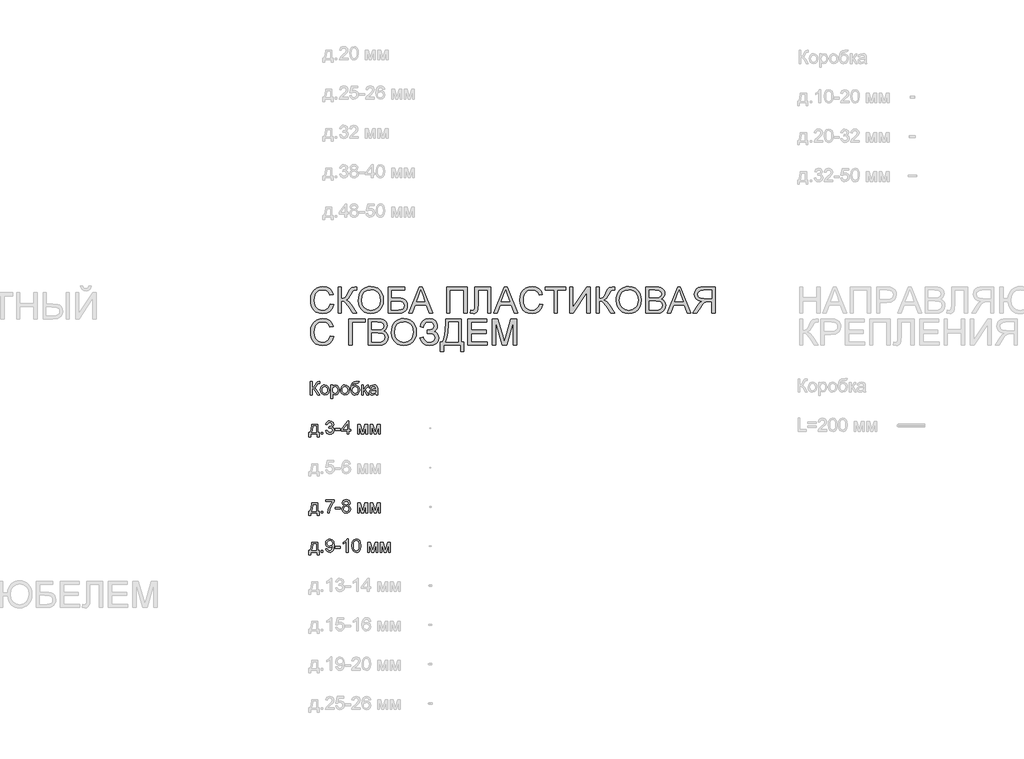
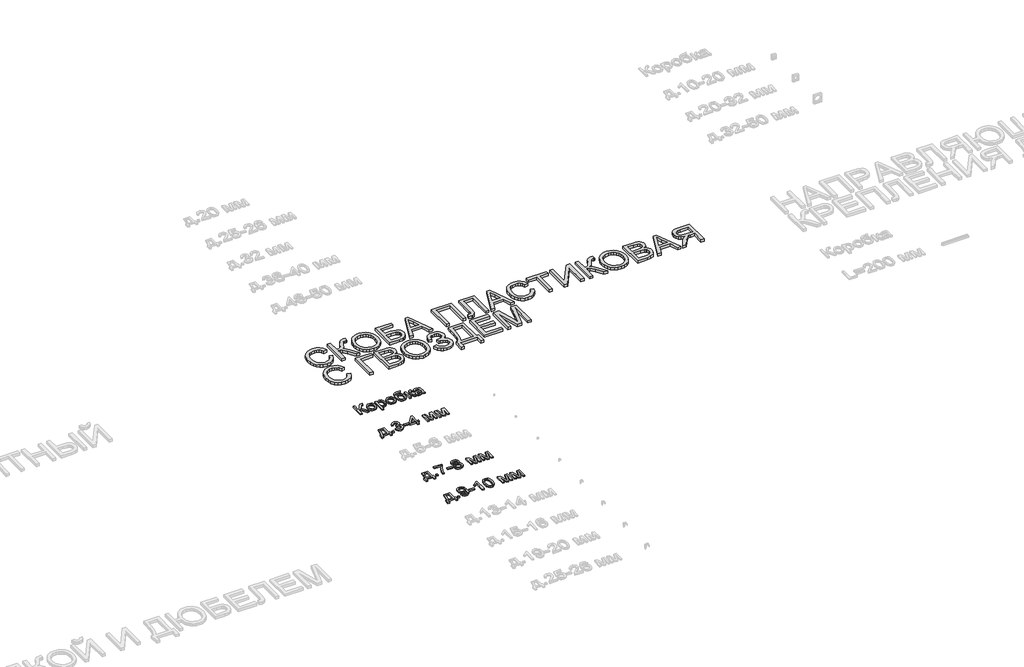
# One storey, part 45 of 98: 5 proxies.
"""IFC4 building model written with IfcOpenShell, lengths in millimetres."""

from ifc_helpers import new_model, si_unit, origin, origin_with_axes, place, context, project, spatial, polyline, outline, extrude, element, save

model = new_model("IFC4")

# Units and contexts
model_context = context("Model", 3, world=origin())
ifc_project = project(units=[si_unit("LENGTHUNIT", "METRE", prefix="MILLI")], contexts=[model_context])

# Site, building, storey
site = spatial("IfcSite", under=ifc_project)
building = spatial("IfcBuilding", under=site)
storey = spatial("IfcBuildingStorey", under=building, Name="Этаж 01", Elevation=0.0)

# Proxies
placement = place(None, origin())
element("IfcBuildingElementProxy", 1, Name="100", ObjectType="100", at=placement, inside=storey, context=model_context, shape_type="SweptSolid", body=[
    extrude(outline(polyline([(12334.7910055, -36537.0810385), (12347.3480442, -36537.0810385), (12347.3480442, -36581.0306742), (12361.3888737, -36577.7074735), (12371.1867975, -36560.8952663), (12378.1152418, -36546.8544368), (12385.963391, -36539.9014671), (12397.1837918, -36537.0810385), (12405.4243485, -36537.2281913), (12405.4243485, -36549.78523), (12402.6529708, -36549.7116536), (12399.8815931, -36549.6380772), (12390.0714066, -36552.6547096), (12382.6156648, -36565.5796304), (12373.7251833, -36581.3249798), (12365.0554309, -36586.5243786), (12374.7491215, -36592.2020241), (12384.307922, -36604.0355616), (12405.4243485, -36637.5373486), (12390.8562215, -36637.5373486), (12373.001682, -36609.2349605), (12360.4323805, -36594.458367), (12347.3480442, -36590.4484532), (12347.3480442, -36637.5373486), (12334.7910055, -36637.5373486), (12334.7910055, -36537.0810385)])), origin_with_axes(), (0.0, 0.0, 1.0), 10.0),
    extrude(outline(polyline([(12411.7028679, -36600.6510472), (12414.4190633, -36582.8639528), (12422.5676495, -36570.3620963), (12432.6353534, -36564.2368611), (12444.6896202, -36562.195116), (12457.8812554, -36564.6813852), (12468.4180088, -36572.1401926), (12475.3249933, -36583.9829272), (12477.6273215, -36599.6209776), (12473.556094, -36621.9636775), (12461.6980311, -36634.6065554), (12444.6896202, -36639.1069785), (12431.3385694, -36636.6299064), (12420.8140787, -36629.1986901), (12413.9806706, -36617.1076351), (12411.7028679, -36600.6510472)]), holes=[polyline([(12424.2599067, -36600.6265218), (12425.7130406, -36611.9910097), (12430.0724422, -36620.0874793), (12436.6330045, -36624.9343246), (12444.6896202, -36626.5499397), (12452.7094476, -36624.9251275), (12459.2577472, -36620.0506911), (12463.6171488, -36611.8469226), (12465.0702827, -36600.2341143), (12463.6079518, -36589.2007201), (12459.220959, -36581.2146152), (12452.6634624, -36576.3677699), (12444.6896202, -36574.7521548), (12436.6330045, -36576.3616385), (12430.0724422, -36581.1900897), (12425.7130406, -36589.2681652), (12424.2599067, -36600.6265218)])]), origin_with_axes(), (0.0, 0.0, 1.0), 10.0),
    extrude(outline(polyline([(12491.7539901, -36665.7906858), (12491.7539901, -36563.7647458), (12504.3110288, -36563.7647458), (12504.3110288, -36576.07653), (12512.9930439, -36565.6654695), (12524.7162168, -36562.195116), (12540.6332445, -36567.0511583), (12551.0320422, -36580.7363686), (12554.5391839, -36600.0869615), (12550.5783211, -36620.4308358), (12539.0758774, -36634.2877243), (12523.1956379, -36639.1069785), (12512.2695427, -36635.8818796), (12504.3110288, -36627.7271621), (12504.3110288, -36665.7906858), (12491.7539901, -36665.7906858)]), holes=[polyline([(12504.3110288, -36601.2396584), (12505.6691265, -36612.4968475), (12509.7434196, -36620.3695222), (12515.7552246, -36625.0048353), (12522.9258578, -36626.5499397), (12530.212987, -36624.949653), (12536.3780761, -36620.148793), (12540.5811279, -36611.987944), (12541.9821451, -36600.3076907), (12540.6148504, -36589.1118153), (12536.5129662, -36581.128776), (12530.5103583, -36576.3463101), (12523.4408926, -36574.7521548), (12516.3438358, -36576.4474776), (12510.1113016, -36581.5334462), (12505.761097, -36589.850645), (12504.3110288, -36601.2396584)])]), origin_with_axes(), (0.0, 0.0, 1.0), 10.0),
    extrude(outline(polyline([(12565.5265928, -36600.6510472), (12568.2427882, -36582.8639528), (12576.3913744, -36570.3620963), (12586.4590784, -36564.2368611), (12598.5133451, -36562.195116), (12611.7049803, -36564.6813852), (12622.2417338, -36572.1401926), (12629.1487182, -36583.9829272), (12631.4510464, -36599.6209776), (12627.379819, -36621.9636775), (12615.521756, -36634.6065554), (12598.5133451, -36639.1069785), (12585.1622943, -36636.6299064), (12574.6378036, -36629.1986901), (12567.8043955, -36617.1076351), (12565.5265928, -36600.6510472)]), holes=[polyline([(12578.0836316, -36600.6265218), (12579.5367655, -36611.9910097), (12583.8961671, -36620.0874793), (12590.4567294, -36624.9343246), (12598.5133451, -36626.5499397), (12606.5331726, -36624.9251275), (12613.0814721, -36620.0506911), (12617.4408737, -36611.8469226), (12618.8940076, -36600.2341143), (12617.4316767, -36589.2007201), (12613.0446839, -36581.2146152), (12606.4871873, -36576.3677699), (12598.5133451, -36574.7521548), (12590.4567294, -36576.3616385), (12583.8961671, -36581.1900897), (12579.5367655, -36589.2681652), (12578.0836316, -36600.6265218)])]), origin_with_axes(), (0.0, 0.0, 1.0), 10.0),
    extrude(outline(polyline([(12697.3754999, -36535.5114086), (12708.3629088, -36535.5114086), (12705.1255473, -36545.3093324), (12698.7244006, -36548.8532623), (12683.3469332, -36549.6380772), (12662.6351768, -36552.5320823), (12654.6889257, -36561.8027085), (12652.0033872, -36578.2102455), (12662.8804315, -36566.192767), (12676.8967355, -36562.195116), (12689.9626777, -36564.7365675), (12700.5638105, -36572.3609218), (12707.5903566, -36584.3201523), (12709.9325387, -36599.8662323), (12705.2849628, -36621.4731682), (12694.2607657, -36634.5084535), (12676.8967355, -36639.1069785), (12665.5629044, -36637.6262534), (12657.067896, -36633.1840783), (12646.2153771, -36618.0273401), (12642.4384553, -36585.862191), (12644.8204912, -36561.768986), (12651.966599, -36547.075166), (12664.0545882, -36539.5795703), (12681.2622685, -36537.0810385), (12695.2417843, -36536.7989956), (12697.3754999, -36535.5114086)]), holes=[polyline([(12697.3754999, -36599.4738248), (12696.0143365, -36589.5931276), (12691.9308464, -36581.680599), (12685.3702841, -36576.4842658), (12676.5779044, -36574.7521548), (12667.4115114, -36576.5823677), (12660.6118259, -36582.0730065), (12656.399577, -36590.6231972), (12654.9954941, -36601.6320659), (12656.5467298, -36612.3037094), (12661.200437, -36620.1365302), (12668.1288813, -36624.9465873), (12676.504328, -36626.5499397), (12684.9226944, -36624.6952013), (12691.5874899, -36619.1309861), (12695.9284974, -36610.507219), (12697.3754999, -36599.4738248)])]), origin_with_axes(), (0.0, 0.0, 1.0), 10.0),
    extrude(outline(polyline([(12725.6288371, -36563.7647458), (12738.1858759, -36563.7647458), (12738.1858759, -36595.1573428), (12746.5981109, -36592.9009999), (12753.4897669, -36579.7553499), (12759.2164633, -36568.4123217), (12764.2687094, -36564.721239), (12773.4534965, -36563.7647458), (12775.8569922, -36563.7647458), (12775.8569922, -36576.395361), (12772.4724779, -36576.3217846), (12766.3411113, -36577.6461598), (12762.0246292, -36585.911242), (12756.9601204, -36594.8507744), (12749.8599979, -36599.2285702), (12757.7817235, -36604.1152694), (12765.5562963, -36614.4098338), (12778.9962519, -36637.5373486), (12764.7224305, -36637.5373486), (12751.5522551, -36614.9003432), (12744.9303792, -36605.3231486), (12738.1858759, -36603.005492), (12738.1858759, -36637.5373486), (12725.6288371, -36637.5373486), (12725.6288371, -36563.7647458)])), origin_with_axes(), (0.0, 0.0, 1.0), 10.0),
    extrude(outline(polyline([(12833.9332965, -36628.1195695), (12821.7564025, -36636.6299064), (12808.3041842, -36639.1069785), (12797.8103503, -36637.6170564), (12790.0695, -36633.1472901), (12785.2962311, -36626.3598673), (12783.7051414, -36617.9169755), (12786.1086371, -36607.9841617), (12792.4239447, -36600.7736746), (12801.2163244, -36596.6533962), (12812.081106, -36594.7649353), (12833.8597201, -36590.4484532), (12833.9332965, -36587.6525501), (12830.4752058, -36578.3819238), (12816.5937918, -36574.7521548), (12803.8896002, -36577.1679132), (12797.8318101, -36585.7395637), (12785.2747713, -36584.1699338), (12790.7071621, -36571.9072007), (12801.6455201, -36564.721239), (12818.2124726, -36562.195116), (12833.4305245, -36564.4269334), (12842.0267004, -36570.0310025), (12845.8771986, -36578.5536021), (12846.4903353, -36589.541011), (12846.4903353, -36605.163733), (12847.1279974, -36626.9791354), (12849.629595, -36637.5373486), (12837.0725562, -36637.5373486), (12833.9332965, -36628.1195695)]), holes=[polyline([(12833.9332965, -36603.005492), (12813.6752613, -36606.8559902), (12802.8717934, -36608.8916039), (12797.9789629, -36612.2025419), (12796.2621802, -36617.0340587), (12800.0023138, -36623.8276129), (12810.97746, -36626.5499397), (12823.6816516, -36623.5455701), (12831.8731573, -36616.2737693), (12833.8597201, -36606.5616846), (12833.9332965, -36603.005492)])]), origin_with_axes(), (0.0, 0.0, 1.0), 10.0),
])
element("IfcBuildingElementProxy", 2, Name="100", ObjectType="100", at=placement, inside=storey, context=model_context, shape_type="SweptSolid", body=[
    extrude(outline(polyline([(12344.2087845, -36863.7647458), (12391.2976799, -36863.7647458), (12391.2976799, -36924.9803098), (12400.715459, -36924.9803098), (12400.715459, -36957.9425366), (12388.1584202, -36957.9425366), (12388.1584202, -36937.5373486), (12336.3606353, -36937.5373486), (12336.3606353, -36957.9425366), (12323.8035965, -36957.9425366), (12323.8035965, -36924.9803098), (12331.6517458, -36924.9803098), (12341.3515677, -36901.031192), (12344.2087845, -36863.7647458)]), holes=[polyline([(12355.1961935, -36876.3217846), (12352.2531375, -36904.9307411), (12345.7784144, -36924.9803098), (12378.7406412, -36924.9803098), (12378.7406412, -36876.3217846), (12355.1961935, -36876.3217846)])]), origin_with_axes(), (0.0, 0.0, 1.0), 10.0),
    extrude(outline(polyline([(12417.9813873, -36937.5373486), (12417.9813873, -36924.9803098), (12430.5384261, -36924.9803098), (12430.5384261, -36937.5373486), (12417.9813873, -36937.5373486)])), origin_with_axes(), (0.0, 0.0, 1.0), 10.0),
    extrude(outline(polyline([(12450.9436141, -36910.8536412), (12463.5006528, -36909.2840114), (12470.4290971, -36922.5032377), (12483.390806, -36926.5499397), (12491.9992447, -36925.1581195), (12498.6456461, -36920.9826588), (12504.3110288, -36907.1993467), (12498.694697, -36894.2131123), (12484.4208756, -36889.0750271), (12475.6162332, -36890.4484532), (12477.0141848, -36877.8914145), (12479.025273, -36878.0385673), (12493.274569, -36874.4333237), (12498.0202467, -36869.8593242), (12499.6021393, -36863.3478129), (12495.0158771, -36853.5253636), (12483.1946023, -36849.6380772), (12471.2261747, -36853.5621518), (12465.0702827, -36865.3343757), (12452.5132439, -36863.7647458), (12456.210458, -36852.4891627), (12462.7894143, -36844.0707964), (12471.7902605, -36838.8284779), (12482.7531439, -36837.0810385), (12497.8976194, -36840.5268665), (12508.4926209, -36849.9446456), (12512.1591781, -36862.6120489), (12508.6765618, -36874.188069), (12498.375866, -36882.5022021), (12512.0610762, -36891.0861154), (12516.8680676, -36907.4200759), (12514.4645719, -36919.6582836), (12507.2540848, -36929.8854031), (12496.3709091, -36936.8015846), (12482.9493477, -36939.1069785), (12470.8092418, -36937.1388098), (12460.9254789, -36931.2343038), (12454.0522169, -36922.2028008), (12450.9436141, -36910.8536412)])), origin_with_axes(), (0.0, 0.0, 1.0), 10.0),
    extrude(outline(polyline([(12524.7162168, -36907.7143815), (12524.7162168, -36895.1573428), (12563.956963, -36895.1573428), (12563.956963, -36907.7143815), (12524.7162168, -36907.7143815)])), origin_with_axes(), (0.0, 0.0, 1.0), 10.0),
    extrude(outline(polyline([(12615.7547479, -36937.5373486), (12615.7547479, -36913.9929009), (12570.2354824, -36913.9929009), (12570.2354824, -36901.4358622), (12618.8940076, -36838.6506683), (12628.3117867, -36838.6506683), (12628.3117867, -36901.4358622), (12640.8688254, -36901.4358622), (12640.8688254, -36913.9929009), (12628.3117867, -36913.9929009), (12628.3117867, -36937.5373486), (12615.7547479, -36937.5373486)]), holes=[polyline([(12615.7547479, -36901.4358622), (12615.7547479, -36862.6365744), (12585.6865262, -36901.4358622), (12615.7547479, -36901.4358622)])]), origin_with_axes(), (0.0, 0.0, 1.0), 10.0),
    extrude(outline(polyline([(12694.2362402, -36863.7647458), (12715.8431761, -36863.7647458), (12732.4959677, -36922.8220688), (12750.4486091, -36863.7647458), (12771.1481027, -36863.7647458), (12771.1481027, -36937.5373486), (12758.5910639, -36937.5373486), (12758.5910639, -36878.1366691), (12740.5403207, -36937.5373486), (12724.0592073, -36937.5373486), (12706.793279, -36875.291715), (12706.793279, -36937.5373486), (12694.2362402, -36937.5373486), (12694.2362402, -36863.7647458)])), origin_with_axes(), (0.0, 0.0, 1.0), 10.0),
    extrude(outline(polyline([(12789.9836608, -36863.7647458), (12811.5905967, -36863.7647458), (12828.2433883, -36922.8220688), (12846.1960297, -36863.7647458), (12866.8955233, -36863.7647458), (12866.8955233, -36937.5373486), (12854.3384845, -36937.5373486), (12854.3384845, -36878.1366691), (12836.2877413, -36937.5373486), (12819.8066279, -36937.5373486), (12802.5406996, -36875.291715), (12802.5406996, -36937.5373486), (12789.9836608, -36937.5373486), (12789.9836608, -36863.7647458)])), origin_with_axes(), (0.0, 0.0, 1.0), 10.0),
])
element("IfcBuildingElementProxy", 3, Name="100", ObjectType="100", at=placement, inside=storey, context=model_context, shape_type="SweptSolid", body=[
    extrude(outline(polyline([(12344.2087845, -37463.7647458), (12391.2976799, -37463.7647458), (12391.2976799, -37524.9803098), (12400.715459, -37524.9803098), (12400.715459, -37557.9425366), (12388.1584202, -37557.9425366), (12388.1584202, -37537.5373486), (12336.3606353, -37537.5373486), (12336.3606353, -37557.9425366), (12323.8035965, -37557.9425366), (12323.8035965, -37524.9803098), (12331.6517458, -37524.9803098), (12341.3515677, -37501.031192), (12344.2087845, -37463.7647458)]), holes=[polyline([(12355.1961935, -37476.3217846), (12352.2531375, -37504.9307411), (12345.7784144, -37524.9803098), (12378.7406412, -37524.9803098), (12378.7406412, -37476.3217846), (12355.1961935, -37476.3217846)])]), origin_with_axes(), (0.0, 0.0, 1.0), 10.0),
    extrude(outline(polyline([(12417.9813873, -37537.5373486), (12417.9813873, -37524.9803098), (12430.5384261, -37524.9803098), (12430.5384261, -37537.5373486), (12417.9813873, -37537.5373486)])), origin_with_axes(), (0.0, 0.0, 1.0), 10.0),
    extrude(outline(polyline([(12450.9436141, -37451.2077071), (12450.9436141, -37438.6506683), (12516.8680676, -37438.6506683), (12516.8680676, -37448.8042114), (12498.1673995, -37475.8190126), (12483.8567899, -37510.2405046), (12479.1969513, -37537.5373486), (12466.6399125, -37537.5373486), (12471.6308449, -37509.210435), (12485.3283179, -37477.1924387), (12504.3110288, -37451.2077071), (12450.9436141, -37451.2077071)])), origin_with_axes(), (0.0, 0.0, 1.0), 10.0),
    extrude(outline(polyline([(12524.7162168, -37507.7143815), (12524.7162168, -37495.1573428), (12563.956963, -37495.1573428), (12563.956963, -37507.7143815), (12524.7162168, -37507.7143815)])), origin_with_axes(), (0.0, 0.0, 1.0), 10.0),
    extrude(outline(polyline([(12593.2403698, -37482.2078965), (12581.7992398, -37474.4087982), (12578.0836316, -37462.2686924), (12580.1069826, -37452.4523745), (12586.1770355, -37444.3405765), (12595.6132087, -37438.895923), (12607.7349204, -37437.0810385), (12619.9302086, -37438.9388425), (12629.4890091, -37444.5122548), (12635.6694266, -37452.7528115), (12637.7295658, -37462.6120489), (12634.0630085, -37474.4455864), (12622.9407096, -37482.2078965), (12636.294826, -37492.0548713), (12640.8688254, -37508.3029927), (12638.6002198, -37520.3082085), (12631.7944029, -37530.2287596), (12621.2852406, -37536.8874238), (12607.9065987, -37539.1069785), (12594.5279568, -37536.8782267), (12584.0187945, -37530.1919714), (12577.2129776, -37520.1763841), (12574.9443719, -37507.9596362), (12579.7023124, -37491.33137), (12593.2403698, -37482.2078965)]), holes=[polyline([(12590.6406704, -37462.6365744), (12595.0920425, -37472.4958119), (12608.0537515, -37476.3217846), (12620.757943, -37472.5203373), (12625.172527, -37463.2006601), (12620.6107902, -37453.5498891), (12607.9065987, -37449.6380772), (12595.1656189, -37453.46405), (12590.6406704, -37462.6365744)]), polyline([(12587.5014107, -37507.5181778), (12589.5983381, -37516.9727451), (12597.0172916, -37524.0483421), (12608.0047005, -37526.5499397), (12616.5518256, -37525.2347616), (12622.965235, -37521.2892272), (12628.3117867, -37507.9105853), (12622.7935568, -37494.274426), (12616.2329945, -37490.227724), (12607.5877676, -37488.8788234), (12599.1602042, -37490.2093299), (12592.8111741, -37494.2008496), (12587.5014107, -37507.5181778)])]), origin_with_axes(), (0.0, 0.0, 1.0), 10.0),
    extrude(outline(polyline([(12694.2362402, -37463.7647458), (12715.8431761, -37463.7647458), (12732.4959677, -37522.8220688), (12750.4486091, -37463.7647458), (12771.1481027, -37463.7647458), (12771.1481027, -37537.5373486), (12758.5910639, -37537.5373486), (12758.5910639, -37478.1366691), (12740.5403207, -37537.5373486), (12724.0592073, -37537.5373486), (12706.793279, -37475.291715), (12706.793279, -37537.5373486), (12694.2362402, -37537.5373486), (12694.2362402, -37463.7647458)])), origin_with_axes(), (0.0, 0.0, 1.0), 10.0),
    extrude(outline(polyline([(12789.9836608, -37463.7647458), (12811.5905967, -37463.7647458), (12828.2433883, -37522.8220688), (12846.1960297, -37463.7647458), (12866.8955233, -37463.7647458), (12866.8955233, -37537.5373486), (12854.3384845, -37537.5373486), (12854.3384845, -37478.1366691), (12836.2877413, -37537.5373486), (12819.8066279, -37537.5373486), (12802.5406996, -37475.291715), (12802.5406996, -37537.5373486), (12789.9836608, -37537.5373486), (12789.9836608, -37463.7647458)])), origin_with_axes(), (0.0, 0.0, 1.0), 10.0),
])
element("IfcBuildingElementProxy", 4, Name="100", ObjectType="100", at=placement, inside=storey, context=model_context, shape_type="SweptSolid", body=[
    extrude(outline(polyline([(12344.2087845, -37763.7647458), (12391.2976799, -37763.7647458), (12391.2976799, -37824.9803098), (12400.715459, -37824.9803098), (12400.715459, -37857.9425366), (12388.1584202, -37857.9425366), (12388.1584202, -37837.5373486), (12336.3606353, -37837.5373486), (12336.3606353, -37857.9425366), (12323.8035965, -37857.9425366), (12323.8035965, -37824.9803098), (12331.6517458, -37824.9803098), (12341.3515677, -37801.031192), (12344.2087845, -37763.7647458)]), holes=[polyline([(12355.1961935, -37776.3217846), (12352.2531375, -37804.9307411), (12345.7784144, -37824.9803098), (12378.7406412, -37824.9803098), (12378.7406412, -37776.3217846), (12355.1961935, -37776.3217846)])]), origin_with_axes(), (0.0, 0.0, 1.0), 10.0),
    extrude(outline(polyline([(12417.9813873, -37837.5373486), (12417.9813873, -37824.9803098), (12430.5384261, -37824.9803098), (12430.5384261, -37837.5373486), (12417.9813873, -37837.5373486)])), origin_with_axes(), (0.0, 0.0, 1.0), 10.0),
    extrude(outline(polyline([(12452.5132439, -37812.4232711), (12465.0702827, -37810.8536412), (12470.7111399, -37822.8343315), (12481.4042433, -37826.5499397), (12491.5700491, -37824.1587067), (12498.4617051, -37817.7698227), (12502.5697207, -37806.8559902), (12504.3846052, -37792.2878632), (12504.3110288, -37789.8353166), (12494.2678504, -37799.3511975), (12480.496801, -37803.005492), (12469.0464739, -37800.7736746), (12459.5152646, -37794.0782222), (12453.0865267, -37783.7346068), (12450.9436141, -37770.5583), (12453.1907599, -37756.9466662), (12459.9321975, -37746.2780883), (12470.0581494, -37739.3803009), (12482.4588383, -37737.0810385), (12500.350166, -37742.3294883), (12512.6619501, -37757.2900227), (12516.8680676, -37785.3962072), (12512.6742129, -37815.8936246), (12507.4594856, -37825.8846864), (12500.2030132, -37833.1718156), (12491.2174955, -37837.6231877), (12480.8156321, -37839.1069785), (12470.0796092, -37837.3564733), (12461.5140901, -37832.1049578), (12455.5237449, -37823.6835258), (12452.5132439, -37812.4232711)]), holes=[polyline([(12504.3110288, -37770.2639944), (12502.9559968, -37761.7536576), (12498.8909008, -37755.2053581), (12492.5817246, -37751.0298974), (12484.494452, -37749.6380772), (12476.1067425, -37751.1371964), (12469.3867648, -37755.6345538), (12464.9721808, -37762.5170127), (12463.5006528, -37771.1714367), (12464.8924731, -37778.9306811), (12469.0679337, -37785.0896388), (12475.6223646, -37789.1087496), (12484.1510955, -37790.4484532), (12498.6333834, -37785.0896388), (12502.8916175, -37778.7038205), (12504.3110288, -37770.2639944)])]), origin_with_axes(), (0.0, 0.0, 1.0), 10.0),
    extrude(outline(polyline([(12524.7162168, -37807.7143815), (12524.7162168, -37795.1573428), (12563.956963, -37795.1573428), (12563.956963, -37807.7143815), (12524.7162168, -37807.7143815)])), origin_with_axes(), (0.0, 0.0, 1.0), 10.0),
    extrude(outline(polyline([(12622.0332673, -37837.5373486), (12609.4762285, -37837.5373486), (12609.4762285, -37759.25206), (12597.5813774, -37767.7256087), (12584.362151, -37774.0654417), (12584.362151, -37762.195116), (12602.7685135, -37750.4474176), (12613.9398634, -37737.0810385), (12622.0332673, -37737.0810385), (12622.0332673, -37837.5373486)])), origin_with_axes(), (0.0, 0.0, 1.0), 10.0),
    extrude(outline(polyline([(12651.8562344, -37788.1185339), (12655.5473171, -37759.2152718), (12666.5102005, -37742.5502175), (12684.8184611, -37737.0810385), (12699.48469, -37740.3184), (12709.6137076, -37749.65034), (12715.4998195, -37764.5127726), (12717.7806879, -37788.1185339), (12714.1263934, -37816.8991687), (12703.2002982, -37833.6010113), (12694.9689385, -37837.7304867), (12684.8184611, -37839.1069785), (12671.770913, -37836.7157455), (12661.8626246, -37829.5420466), (12654.3578319, -37812.5520298), (12651.8562344, -37788.1185339)]), holes=[polyline([(12664.4132731, -37788.0940085), (12665.8848011, -37807.8462059), (12670.2993851, -37819.2781389), (12676.87221, -37824.7319895), (12684.8184611, -37826.5499397), (12692.7647122, -37824.7258581), (12699.3375372, -37819.2536135), (12703.7521212, -37807.8155491), (12705.2236491, -37788.0940085), (12703.8011721, -37768.7863351), (12699.5337409, -37757.2654973), (12692.9731787, -37751.5449322), (12684.6713083, -37749.6380772), (12676.8108964, -37751.3180717), (12670.4955888, -37756.358055), (12665.9338521, -37768.5962627), (12664.4132731, -37788.0940085)])]), origin_with_axes(), (0.0, 0.0, 1.0), 10.0),
    extrude(outline(polyline([(12771.1481027, -37763.7647458), (12792.7550385, -37763.7647458), (12809.4078302, -37822.8220688), (12827.3604715, -37763.7647458), (12848.0599651, -37763.7647458), (12848.0599651, -37837.5373486), (12835.5029264, -37837.5373486), (12835.5029264, -37778.1366691), (12817.4521831, -37837.5373486), (12800.9710698, -37837.5373486), (12783.7051414, -37775.291715), (12783.7051414, -37837.5373486), (12771.1481027, -37837.5373486), (12771.1481027, -37763.7647458)])), origin_with_axes(), (0.0, 0.0, 1.0), 10.0),
    extrude(outline(polyline([(12866.8955233, -37763.7647458), (12888.5024591, -37763.7647458), (12905.1552508, -37822.8220688), (12923.1078921, -37763.7647458), (12943.8073857, -37763.7647458), (12943.8073857, -37837.5373486), (12931.250347, -37837.5373486), (12931.250347, -37778.1366691), (12913.1996037, -37837.5373486), (12896.7184904, -37837.5373486), (12879.4525621, -37775.291715), (12879.4525621, -37837.5373486), (12866.8955233, -37837.5373486), (12866.8955233, -37763.7647458)])), origin_with_axes(), (0.0, 0.0, 1.0), 10.0),
])
element("IfcBuildingElementProxy", 5, Name="200", ObjectType="200", at=placement, inside=storey, context=model_context, shape_type="SweptSolid", body=[
    extrude(outline(polyline([(12487.0451005, -35944.1443728), (12512.1591781, -35950.6190959), (12500.5708952, -35979.8841086), (12482.3852619, -36001.2641839), (12458.4974577, -36014.3423888), (12429.8026621, -36018.7017905), (12400.6725394, -36015.4031152), (12377.5388933, -36005.5070896), (12359.8069811, -35989.35707), (12346.8820604, -35967.296413), (12338.9909916, -35941.3607323), (12336.3606353, -35913.5856417), (12339.3343481, -35884.2899722), (12348.2554865, -35858.9919536), (12362.6580666, -35838.4947951), (12382.0761046, -35823.6017057), (12405.1055175, -35814.5334145), (12430.3422223, -35811.5106508), (12457.8781897, -35815.4224627), (12480.6439538, -35827.1578983), (12497.9282762, -35845.9934565), (12509.0199184, -35871.2056359), (12483.9058408, -35877.1898496), (12475.1993003, -35858.8754577), (12463.3044491, -35846.3122875), (12448.0741345, -35839.0466181), (12429.3612037, -35836.6247283), (12407.791056, -35839.3102669), (12390.0714066, -35847.3668826), (12376.6253197, -35859.9484468), (12367.8758596, -35876.208831), (12363.0749995, -35894.590668), (12361.4747128, -35913.5365908), (12363.3693051, -35936.7376819), (12369.0530819, -35956.7995134), (12378.7406412, -35972.9556644), (12392.6465806, -35984.439714), (12409.3177663, -35991.3007132), (12427.3010645, -35993.5877129), (12448.2642069, -35990.4729787), (12465.7324703, -35981.128776), (12478.9210398, -35965.6532068), (12487.0451005, -35944.1443728)])), origin_with_axes(), (0.0, 0.0, 1.0), 20.0),
    extrude(outline(polyline([(12546.6910347, -35814.6499105), (12571.8051122, -35814.6499105), (12571.8051122, -35902.5491818), (12588.8073918, -35900.8875815), (12599.8867712, -35895.9027805), (12608.8446978, -35884.1734762), (12619.4826188, -35862.2783661), (12633.3395073, -35834.1967071), (12649.0358057, -35820.2907677), (12671.4766074, -35814.6499105), (12687.9577208, -35814.9442161), (12687.9577208, -35840.0582936), (12682.4149654, -35839.9111408), (12676.87221, -35839.763988), (12665.3697663, -35841.2723042), (12657.251837, -35845.7972527), (12642.3403534, -35871.6470943), (12624.5593903, -35903.137793), (12607.2198856, -35913.5365908), (12626.6072668, -35924.8918817), (12645.7248678, -35948.5589567), (12687.9577208, -36015.5625308), (12658.8214668, -36015.5625308), (12623.1123878, -35958.9577544), (12597.9737848, -35929.4045675), (12586.3671079, -35923.3896969), (12571.8051122, -35921.38474), (12571.8051122, -36015.5625308), (12546.6910347, -36015.5625308), (12546.6910347, -35814.6499105)])), origin_with_axes(), (0.0, 0.0, 1.0), 20.0),
    extrude(outline(polyline([(12700.5147596, -35917.754971), (12702.1886227, -35894.1890635), (12707.2102119, -35873.3270887), (12715.5795273, -35855.1690466), (12727.2965688, -35839.7149371), (12741.6592951, -35827.3755618), (12757.9656645, -35818.5617224), (12776.2156772, -35813.2734187), (12796.409333, -35811.5106508), (12822.7619466, -35814.8215887), (12846.3922334, -35824.7544026), (12866.0126065, -35840.6101166), (12880.3354788, -35861.6897549), (12889.0910703, -35886.9755107), (12892.0096008, -35915.4495771), (12888.9377862, -35944.3037883), (12879.7223422, -35969.9451634), (12864.8721723, -35991.0615899), (12844.89618, -36006.3409554), (12821.4682282, -36015.6115817), (12796.2621802, -36018.7017905), (12769.5048964, -36015.2866193), (12745.7397195, -36005.0411057), (12726.1683974, -35988.8910861), (12711.9926779, -35967.7623969), (12703.3842392, -35943.4515283), (12700.5147596, -35917.754971)]), holes=[polyline([(12725.6288371, -35918.0002256), (12730.6504264, -35949.4296108), (12745.7151941, -35973.3787287), (12768.3583309, -35988.5354669), (12796.1150274, -35993.5877129), (12824.2763941, -35988.4864159), (12846.9563191, -35973.1825249), (12855.679721, -35961.9100075), (12861.9107223, -35948.497643), (12866.8955233, -35915.2533734), (12864.7618077, -35893.0210382), (12858.360661, -35873.8053353), (12847.85763, -35858.0906427), (12833.4182617, -35846.3613385), (12815.9990493, -35839.0588808), (12796.5564858, -35836.6247283), (12769.5416846, -35841.3152238), (12746.5735854, -35855.3867101), (12737.410258, -35866.3357979), (12730.8650242, -35880.4210798), (12725.6288371, -35918.0002256)])]), origin_with_axes(), (0.0, 0.0, 1.0), 20.0),
    extrude(outline(polyline([(12926.5414574, -35814.6499105), (13052.1118451, -35814.6499105), (13052.1118451, -35839.763988), (12951.655535, -35839.763988), (12951.655535, -35899.4099222), (12998.6953794, -35899.4099222), (13022.0804116, -35900.6852464), (13040.1434175, -35904.5112192), (13054.0125688, -35911.8811218), (13064.8160367, -35923.7882357), (13071.7690064, -35939.1166522), (13074.086663, -35956.7504625), (13072.4373254, -35971.5577128), (13067.4893125, -35985.3716817), (13059.2671499, -35997.468868), (13047.795363, -36007.1257703), (13030.1002391, -36013.4533407), (13003.2080652, -36015.5625308), (12926.5414574, -36015.5625308), (12926.5414574, -35814.6499105)]), holes=[polyline([(12951.655535, -35990.4484532), (13005.4644081, -35990.4484532), (13024.4839073, -35988.3760513), (13038.0832784, -35982.1588456), (13046.2502587, -35971.7968361), (13048.9725854, -35957.2900227), (13047.4152183, -35946.4865548), (13042.743117, -35937.6205987), (13035.2935066, -35931.0477737), (13025.4036123, -35927.1236991), (12987.5608177, -35924.5239997), (12951.655535, -35924.5239997), (12951.655535, -35990.4484532)])]), origin_with_axes(), (0.0, 0.0, 1.0), 20.0),
    extrude(outline(polyline([(13085.2212247, -36015.5625308), (13165.4194996, -35814.6499105), (13186.8057063, -35814.6499105), (13267.0039812, -36015.5625308), (13240.4674267, -36015.5625308), (13217.4625392, -35952.7773369), (13134.7136158, -35952.7773369), (13111.7577793, -36015.5625308), (13085.2212247, -36015.5625308)]), holes=[polyline([(13143.9351911, -35927.6632594), (13208.2900148, -35927.6632594), (13190.1902206, -35878.2689702), (13176.112603, -35839.763988), (13163.6046151, -35873.9524881), (13143.9351911, -35927.6632594)])]), origin_with_axes(), (0.0, 0.0, 1.0), 20.0),
    extrude(outline(polyline([(13372.3163337, -35814.6499105), (13529.2793183, -35814.6499105), (13529.2793183, -36015.5625308), (13504.1652408, -36015.5625308), (13504.1652408, -35839.763988), (13397.4304113, -35839.763988), (13397.4304113, -36015.5625308), (13372.3163337, -36015.5625308), (13372.3163337, -35814.6499105)])), origin_with_axes(), (0.0, 0.0, 1.0), 20.0),
    extrude(outline(polyline([(13588.9252525, -35814.6499105), (13711.3563805, -35814.6499105), (13711.3563805, -36015.5625308), (13686.2423029, -36015.5625308), (13686.2423029, -35839.763988), (13614.03933, -35839.763988), (13614.03933, -35942.2804373), (13611.1207995, -35988.0204321), (13606.6019824, -36000.9453528), (13598.8825918, -36010.632912), (13588.3121158, -36016.6845709), (13575.2400423, -36018.7017905), (13554.3933959, -36015.5625308), (13557.5326556, -35990.4484532), (13569.5501341, -35993.5877129), (13578.0420768, -35991.9015871), (13584.0937356, -35986.8432097), (13587.7173733, -35975.5308383), (13588.9252525, -35955.0827308), (13588.9252525, -35814.6499105)])), origin_with_axes(), (0.0, 0.0, 1.0), 20.0),
    extrude(outline(polyline([(13731.9087213, -36015.5625308), (13812.1069962, -35814.6499105), (13833.4932029, -35814.6499105), (13913.6914778, -36015.5625308), (13887.1549232, -36015.5625308), (13864.1500358, -35952.7773369), (13781.4011124, -35952.7773369), (13758.4452759, -36015.5625308), (13731.9087213, -36015.5625308)]), holes=[polyline([(13790.6226877, -35927.6632594), (13854.9775114, -35927.6632594), (13836.8777172, -35878.2689702), (13822.8000996, -35839.763988), (13810.2921117, -35873.9524881), (13790.6226877, -35927.6632594)])]), origin_with_axes(), (0.0, 0.0, 1.0), 20.0),
    extrude(outline(polyline([(14081.7890242, -35944.1443728), (14106.9031017, -35950.6190959), (14095.3148188, -35979.8841086), (14077.1291856, -36001.2641839), (14053.2413813, -36014.3423888), (14024.5465857, -36018.7017905), (13995.4164631, -36015.4031152), (13972.2828169, -36005.5070896), (13954.5509048, -35989.35707), (13941.625984, -35967.296413), (13933.7349152, -35941.3607323), (13931.1045589, -35913.5856417), (13934.0782717, -35884.2899722), (13942.9994101, -35858.9919536), (13957.4019902, -35838.4947951), (13976.8200282, -35823.6017057), (13999.8494411, -35814.5334145), (14025.086146, -35811.5106508), (14052.6221133, -35815.4224627), (14075.3878774, -35827.1578983), (14092.6721998, -35845.9934565), (14103.763842, -35871.2056359), (14078.6497645, -35877.1898496), (14069.9432239, -35858.8754577), (14058.0483727, -35846.3122875), (14042.8180581, -35839.0466181), (14024.1051273, -35836.6247283), (14002.5349797, -35839.3102669), (13984.8153302, -35847.3668826), (13971.3692433, -35859.9484468), (13962.6197832, -35876.208831), (13957.8189231, -35894.590668), (13956.2186365, -35913.5365908), (13958.1132287, -35936.7376819), (13963.7970056, -35956.7995134), (13973.4845648, -35972.9556644), (13987.3905042, -35984.439714), (14004.0616899, -35991.3007132), (14022.0449881, -35993.5877129), (14043.0081305, -35990.4729787), (14060.4763939, -35981.128776), (14073.6649634, -35965.6532068), (14081.7890242, -35944.1443728)])), origin_with_axes(), (0.0, 0.0, 1.0), 20.0),
    extrude(outline(polyline([(14191.6631134, -36015.5625308), (14191.6631134, -35839.763988), (14125.7386598, -35839.763988), (14125.7386598, -35814.6499105), (14282.7016445, -35814.6499105), (14282.7016445, -35839.763988), (14216.7771909, -35839.763988), (14216.7771909, -36015.5625308), (14191.6631134, -36015.5625308)])), origin_with_axes(), (0.0, 0.0, 1.0), 20.0),
    extrude(outline(polyline([(14310.9549817, -35814.6499105), (14336.0690592, -35814.6499105), (14336.0690592, -35973.7711361), (14441.2342589, -35814.6499105), (14467.9179663, -35814.6499105), (14467.9179663, -36015.5625308), (14442.8038888, -36015.5625308), (14442.8038888, -35856.8827635), (14337.8839437, -36015.5625308), (14310.9549817, -36015.5625308), (14310.9549817, -35814.6499105)])), origin_with_axes(), (0.0, 0.0, 1.0), 20.0),
    extrude(outline(polyline([(14511.867602, -35814.6499105), (14536.9816795, -35814.6499105), (14536.9816795, -35902.5491818), (14553.9839591, -35900.8875815), (14565.0633385, -35895.9027805), (14574.0212651, -35884.1734762), (14584.6591861, -35862.2783661), (14598.5160746, -35834.1967071), (14614.212373, -35820.2907677), (14636.6531747, -35814.6499105), (14653.1342881, -35814.9442161), (14653.1342881, -35840.0582936), (14647.5915327, -35839.9111408), (14642.0487773, -35839.763988), (14630.5463336, -35841.2723042), (14622.4284043, -35845.7972527), (14607.5169207, -35871.6470943), (14589.7359576, -35903.137793), (14572.3964529, -35913.5365908), (14591.7838341, -35924.8918817), (14610.9014351, -35948.5589567), (14653.1342881, -36015.5625308), (14623.9980341, -36015.5625308), (14588.2889551, -35958.9577544), (14563.1503521, -35929.4045675), (14551.5436752, -35923.3896969), (14536.9816795, -35921.38474), (14536.9816795, -36015.5625308), (14511.867602, -36015.5625308), (14511.867602, -35814.6499105)])), origin_with_axes(), (0.0, 0.0, 1.0), 20.0),
    extrude(outline(polyline([(14665.6913269, -35917.754971), (14667.36519, -35894.1890635), (14672.3867792, -35873.3270887), (14680.7560946, -35855.1690466), (14692.4731362, -35839.7149371), (14706.8358624, -35827.3755618), (14723.1422318, -35818.5617224), (14741.3922445, -35813.2734187), (14761.5859003, -35811.5106508), (14787.9385139, -35814.8215887), (14811.5688007, -35824.7544026), (14831.1891738, -35840.6101166), (14845.5120461, -35861.6897549), (14854.2676376, -35886.9755107), (14857.1861681, -35915.4495771), (14854.1143535, -35944.3037883), (14844.8989095, -35969.9451634), (14830.0487396, -35991.0615899), (14810.0727473, -36006.3409554), (14786.6447955, -36015.6115817), (14761.4387475, -36018.7017905), (14734.6814637, -36015.2866193), (14710.9162868, -36005.0411057), (14691.3449647, -35988.8910861), (14677.1692452, -35967.7623969), (14668.5608065, -35943.4515283), (14665.6913269, -35917.754971)]), holes=[polyline([(14690.8054044, -35918.0002256), (14695.8269937, -35949.4296108), (14710.8917614, -35973.3787287), (14733.5348982, -35988.5354669), (14761.2915947, -35993.5877129), (14789.4529614, -35988.4864159), (14812.1328864, -35973.1825249), (14820.8562883, -35961.9100075), (14827.0872896, -35948.497643), (14832.0720906, -35915.2533734), (14829.938375, -35893.0210382), (14823.5372283, -35873.8053353), (14813.0341973, -35858.0906427), (14798.594829, -35846.3613385), (14781.1756166, -35839.0588808), (14761.7330531, -35836.6247283), (14734.7182519, -35841.3152238), (14711.7501527, -35855.3867101), (14702.5868253, -35866.3357979), (14696.0415915, -35880.4210798), (14690.8054044, -35918.0002256)])]), origin_with_axes(), (0.0, 0.0, 1.0), 20.0),
    extrude(outline(polyline([(14891.7180247, -36015.5625308), (14891.7180247, -35814.6499105), (14968.3846325, -35814.6499105), (14989.4704022, -35816.1275698), (15005.9331215, -35820.5605479), (15018.5514739, -35828.0592092), (15028.1041431, -35838.7339184), (15034.1190137, -35851.2909572), (15036.1239706, -35864.4366071), (15034.4378448, -35876.5337934), (15029.3794673, -35887.9074784), (15020.9120501, -35897.8586864), (15008.9988048, -35905.6884415), (15023.2297066, -35913.1196578), (15033.7450003, -35924.4258978), (15040.2381176, -35938.8591348), (15042.40249, -35955.671342), (15036.4918526, -35982.6738804), (15021.8501492, -36001.901846), (14999.9979587, -36012.10444), (14967.7960213, -36015.5625308), (14891.7180247, -36015.5625308)]), holes=[polyline([(14916.8321023, -35896.2706625), (14962.6947243, -35896.2706625), (14989.4765336, -35894.1124214), (15005.589765, -35884.8172697), (15011.009893, -35868.4587836), (15005.957647, -35852.0757721), (14991.4876218, -35842.3882129), (14959.2121081, -35839.763988), (14916.8321023, -35839.763988), (14916.8321023, -35896.2706625)]), polyline([(14916.8321023, -35990.4484532), (14968.3355816, -35990.4484532), (14986.974936, -35989.4674346), (15002.7448109, -35983.9982556), (15013.1926595, -35972.8391684), (15017.2884124, -35955.9165966), (15012.481421, -35936.3943254), (15006.1845075, -35929.3371225), (14996.9077499, -35924.7447289), (14965.883035, -35921.38474), (14916.8321023, -35921.38474), (14916.8321023, -35990.4484532)])]), origin_with_axes(), (0.0, 0.0, 1.0), 20.0),
    extrude(outline(polyline([(15053.5370517, -36015.5625308), (15133.7353266, -35814.6499105), (15155.1215333, -35814.6499105), (15235.3198082, -36015.5625308), (15208.7832536, -36015.5625308), (15185.7783662, -35952.7773369), (15103.0294428, -35952.7773369), (15080.0736063, -36015.5625308), (15053.5370517, -36015.5625308)]), holes=[polyline([(15112.2510181, -35927.6632594), (15176.6058418, -35927.6632594), (15158.5060476, -35878.2689702), (15144.42843, -35839.763988), (15131.9204421, -35873.9524881), (15112.2510181, -35927.6632594)])]), origin_with_axes(), (0.0, 0.0, 1.0), 20.0),
    extrude(outline(polyline([(15419.113653, -36015.5625308), (15393.9995755, -36015.5625308), (15393.9995755, -35927.6632594), (15363.6860991, -35927.6632594), (15349.1179721, -35928.5461762), (15337.17407, -35933.3286421), (15323.9057927, -35946.3516647), (15305.0211836, -35973.9182889), (15278.8770365, -36015.5625308), (15249.6917315, -36015.5625308), (15283.1935185, -35961.1159955), (15303.5496556, -35935.266154), (15317.823477, -35924.5239997), (15293.0834128, -35917.8653356), (15275.7623022, -35905.8355943), (15265.5535769, -35889.4280574), (15262.1506684, -35869.636006), (15264.2046762, -35853.7251097), (15270.3666996, -35839.2489532), (15279.9684197, -35827.5748312), (15292.3415175, -35820.0700385), (15309.2702206, -35816.0049425), (15332.5387568, -35814.6499105), (15419.113653, -35814.6499105), (15419.113653, -36015.5625308)]), holes=[polyline([(15393.9995755, -35902.5491818), (15393.9995755, -35839.763988), (15331.4596363, -35839.763988), (15311.5878772, -35841.9344918), (15297.8842729, -35848.4460031), (15289.9196277, -35858.3175033), (15287.264746, -35870.5679737), (15292.8320268, -35887.6131728), (15299.6868947, -35894.3699388), (15309.1169365, -35898.9929892), (15337.7872066, -35902.5491818), (15393.9995755, -35902.5491818)])]), origin_with_axes(), (0.0, 0.0, 1.0), 20.0),
    extrude(outline(polyline([(12487.0451005, -36188.0940085), (12512.1591781, -36194.5687316), (12500.5708952, -36223.8337443), (12482.3852619, -36245.2138196), (12458.4974577, -36258.2920245), (12429.8026621, -36262.6514262), (12400.6725394, -36259.3527509), (12377.5388933, -36249.4567253), (12359.8069811, -36233.3067057), (12346.8820604, -36211.2460487), (12338.9909916, -36185.310368), (12336.3606353, -36157.5352774), (12339.3343481, -36128.2396078), (12348.2554865, -36102.9415893), (12362.6580666, -36082.4444308), (12382.0761046, -36067.5513414), (12405.1055175, -36058.4830502), (12430.3422223, -36055.4602865), (12457.8781897, -36059.3720983), (12480.6439538, -36071.107534), (12497.9282762, -36089.9430921), (12509.0199184, -36115.1552716), (12483.9058408, -36121.1394853), (12475.1993003, -36102.8250933), (12463.3044491, -36090.2619232), (12448.0741345, -36082.9962538), (12429.3612037, -36080.574364), (12407.791056, -36083.2599026), (12390.0714066, -36091.3165183), (12376.6253197, -36103.8980825), (12367.8758596, -36120.1584667), (12363.0749995, -36138.5403037), (12361.4747128, -36157.4862265), (12363.3693051, -36180.6873176), (12369.0530819, -36200.7491491), (12378.7406412, -36216.9053001), (12392.6465806, -36228.3893497), (12409.3177663, -36235.2503489), (12427.3010645, -36237.5373486), (12448.2642069, -36234.4226144), (12465.7324703, -36225.0784117), (12478.9210398, -36209.6028424), (12487.0451005, -36188.0940085)])), origin_with_axes(), (0.0, 0.0, 1.0), 20.0),
    extrude(outline(polyline([(12628.3117867, -36058.5995462), (12753.8821744, -36058.5995462), (12753.8821744, -36083.7136237), (12653.4258642, -36083.7136237), (12653.4258642, -36259.5121665), (12628.3117867, -36259.5121665), (12628.3117867, -36058.5995462)])), origin_with_axes(), (0.0, 0.0, 1.0), 20.0),
    extrude(outline(polyline([(12775.8569922, -36259.5121665), (12775.8569922, -36058.5995462), (12852.5236, -36058.5995462), (12873.6093697, -36060.0772055), (12890.072089, -36064.5101835), (12902.6904414, -36072.0088449), (12912.2431106, -36082.6835541), (12918.2579812, -36095.2405929), (12920.2629381, -36108.3862428), (12918.5768122, -36120.4834291), (12913.5184348, -36131.8571141), (12905.0510176, -36141.8083221), (12893.1377723, -36149.6380772), (12907.3686741, -36157.0692935), (12917.8839678, -36168.3755335), (12924.377085, -36182.8087705), (12926.5414574, -36199.6209776), (12920.63082, -36226.6235161), (12905.9891166, -36245.8514817), (12884.1369261, -36256.0540757), (12851.9349888, -36259.5121665), (12775.8569922, -36259.5121665)]), holes=[polyline([(12800.9710698, -36234.3980889), (12852.4745491, -36234.3980889), (12871.1139035, -36233.4170703), (12886.8837784, -36227.9478913), (12897.331627, -36216.7888041), (12901.4273799, -36199.8662323), (12896.6203885, -36180.3439611), (12890.323475, -36173.2867582), (12881.0467174, -36168.6943646), (12850.0220024, -36165.3343757), (12800.9710698, -36165.3343757), (12800.9710698, -36234.3980889)]), polyline([(12800.9710698, -36140.2202982), (12846.8336918, -36140.2202982), (12873.6155011, -36138.0620571), (12889.7287325, -36128.7669054), (12895.1488605, -36112.4084193), (12890.0966144, -36096.0254078), (12875.6265893, -36086.3378486), (12843.3510756, -36083.7136237), (12800.9710698, -36083.7136237), (12800.9710698, -36140.2202982)])]), origin_with_axes(), (0.0, 0.0, 1.0), 20.0),
    extrude(outline(polyline([(12951.655535, -36161.7046067), (12953.3293981, -36138.1386992), (12958.3509873, -36117.2767244), (12966.7203027, -36099.1186822), (12978.4373442, -36083.6645728), (12992.8000705, -36071.3251975), (13009.1064399, -36062.511358), (13027.3564525, -36057.2230544), (13047.5501084, -36055.4602865), (13073.902722, -36058.7712244), (13097.5330088, -36068.7040383), (13117.1533819, -36084.5597523), (13131.4762542, -36105.6393906), (13140.2318457, -36130.9251464), (13143.1503762, -36159.3992128), (13140.0785615, -36188.253424), (13130.8631176, -36213.8947991), (13116.0129477, -36235.0112256), (13096.0369553, -36250.2905911), (13072.6090036, -36259.5612174), (13047.4029556, -36262.6514262), (13020.6456718, -36259.236255), (12996.8804949, -36248.9907414), (12977.3091728, -36232.8407218), (12963.1334532, -36211.7120326), (12954.5250145, -36187.401164), (12951.655535, -36161.7046067)]), holes=[polyline([(12976.7696125, -36161.9498613), (12981.7912017, -36193.3792465), (12996.8559694, -36217.3283643), (13019.4991063, -36232.4851025), (13047.2558028, -36237.5373486), (13075.4171695, -36232.4360516), (13098.0970945, -36217.1321606), (13106.8204963, -36205.8596431), (13113.0514976, -36192.4472787), (13118.0362987, -36159.2030091), (13115.9025831, -36136.9706739), (13109.5014364, -36117.754971), (13098.9984054, -36102.0402784), (13084.5590371, -36090.3109741), (13067.1398246, -36083.0085165), (13047.6972612, -36080.574364), (13020.68246, -36085.2648594), (12997.7143608, -36099.3363458), (12988.5510334, -36110.2854336), (12982.0057996, -36124.3707155), (12976.7696125, -36161.9498613)])]), origin_with_axes(), (0.0, 0.0, 1.0), 20.0),
    extrude(outline(polyline([(13168.2644537, -36203.005492), (13193.3785313, -36196.7269726), (13198.6821634, -36210.3202123), (13208.8050496, -36223.9257148), (13223.379308, -36234.1344402), (13242.0370565, -36237.5373486), (13260.9400597, -36234.9805687), (13275.3671653, -36227.3102291), (13284.5090328, -36216.0223833), (13287.556322, -36202.6130845), (13284.22699, -36188.5661237), (13274.2389938, -36177.7197362), (13258.5120385, -36170.7851606), (13237.9658291, -36168.4736354), (13224.7711282, -36168.4736354), (13224.7711282, -36143.3595578), (13253.1961437, -36141.3239441), (13262.4606386, -36137.7064379), (13270.5846993, -36130.9251464), (13276.2500821, -36121.9917453), (13278.138543, -36111.91791), (13275.6246827, -36100.0905038), (13268.0831018, -36089.9185667), (13256.2495642, -36082.9104147), (13240.8598341, -36080.574364), (13226.9477633, -36082.3708544), (13215.2307218, -36087.7603256), (13206.2544011, -36096.1173783), (13200.5644929, -36106.816613), (13196.517791, -36124.5239997), (13171.4037134, -36118.2454803), (13179.2058774, -36090.776958), (13193.3417431, -36071.1565849), (13213.8113104, -36059.3843611), (13240.6145795, -36055.4602865), (13266.4705523, -36059.5376452), (13286.3545742, -36071.7697216), (13299.0281089, -36089.4587142), (13303.2526205, -36109.9068218), (13301.6094143, -36123.1229824), (13296.6797955, -36134.7633819), (13288.4637643, -36144.8280201), (13276.9613206, -36153.3168972), (13290.9285737, -36159.7487007), (13302.4187546, -36170.607351), (13310.1074883, -36184.9608801), (13312.6703996, -36201.8773205), (13307.7530436, -36225.6608915), (13293.0009756, -36245.2138196), (13270.1309782, -36258.2920245), (13240.8598341, -36262.6514262), (13215.3901373, -36258.9235553), (13194.8010083, -36247.7399426), (13179.0924471, -36229.1005882), (13168.2644537, -36203.005492)])), origin_with_axes(), (0.0, 0.0, 1.0), 20.0),
    extrude(outline(polyline([(13366.0378143, -36058.5995462), (13485.3296826, -36058.5995462), (13485.3296826, -36234.3980889), (13504.1652408, -36234.3980889), (13504.1652408, -36306.6010618), (13479.0511633, -36306.6010618), (13479.0511633, -36259.5121665), (13350.3415159, -36259.5121665), (13350.3415159, -36306.6010618), (13325.2274383, -36306.6010618), (13325.2274383, -36234.3980889), (13340.9237368, -36234.3980889), (13351.9111457, -36211.6169964), (13359.759295, -36179.5714089), (13364.4681845, -36138.2613265), (13366.0378143, -36087.6867492), (13366.0378143, -36058.5995462)]), holes=[polyline([(13460.2156051, -36083.7136237), (13391.1518919, -36083.7136237), (13391.1518919, -36093.8181158), (13386.0505949, -36162.6365744), (13378.4967512, -36202.4046181), (13366.0378143, -36234.3980889), (13460.2156051, -36234.3980889), (13460.2156051, -36083.7136237)])]), origin_with_axes(), (0.0, 0.0, 1.0), 20.0),
    extrude(outline(polyline([(13535.5578377, -36259.5121665), (13535.5578377, -36058.5995462), (13679.9637836, -36058.5995462), (13679.9637836, -36083.7136237), (13560.6719153, -36083.7136237), (13560.6719153, -36143.3595578), (13673.6852642, -36143.3595578), (13673.6852642, -36168.4736354), (13560.6719153, -36168.4736354), (13560.6719153, -36234.3980889), (13683.1030433, -36234.3980889), (13683.1030433, -36259.5121665), (13535.5578377, -36259.5121665)])), origin_with_axes(), (0.0, 0.0, 1.0), 20.0),
    extrude(outline(polyline([(13720.7741596, -36259.5121665), (13720.7741596, -36058.5995462), (13763.9880313, -36058.5995462), (13805.0927129, -36200.2095888), (13813.3823205, -36229.7873012), (13822.3586412, -36197.7570422), (13862.7766097, -36058.5995462), (13905.9904814, -36058.5995462), (13905.9904814, -36259.5121665), (13880.8764039, -36259.5121665), (13880.8764039, -36083.7136237), (13830.4029941, -36259.5121665), (13796.3616468, -36259.5121665), (13745.8882371, -36083.7136237), (13745.8882371, -36259.5121665), (13720.7741596, -36259.5121665)])), origin_with_axes(), (0.0, 0.0, 1.0), 20.0),
])

save(model, "model.ifc")
